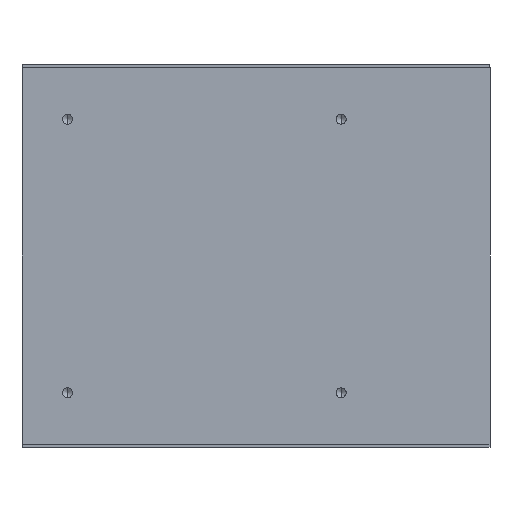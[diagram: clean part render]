
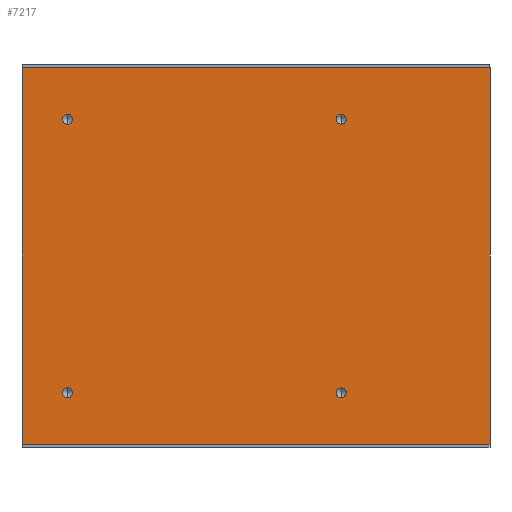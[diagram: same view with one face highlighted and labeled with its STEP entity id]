
A CAD part, front view. The second image highlights one B-rep face of the part: STEP entity #7217.
In plain terms, the highlighted planar face has unit normal (0, -1, 0).
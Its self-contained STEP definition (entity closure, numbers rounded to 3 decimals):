
#216 = CARTESIAN_POINT ( 'NONE',  ( 105., 0., -45. ) ) ;
#275 = CARTESIAN_POINT ( 'NONE',  ( 154., 0., 62. ) ) ;
#381 = EDGE_CURVE ( 'NONE', #7695, #28150, #20667, .T. ) ;
#872 = CIRCLE ( 'NONE', #42446, 1.65 ) ;
#1463 = DIRECTION ( 'NONE',  ( 1., 0., 0. ) ) ;
#2076 = CARTESIAN_POINT ( 'NONE',  ( 0., 0., 62. ) ) ;
#2306 = AXIS2_PLACEMENT_3D ( 'NONE', #20024, #10719, #3002 ) ;
#2668 = DIRECTION ( 'NONE',  ( 0., 0., -1. ) ) ;
#2994 = DIRECTION ( 'NONE',  ( 0., -1., 0. ) ) ;
#3002 = DIRECTION ( 'NONE',  ( 0., 0., -1. ) ) ;
#3590 = CARTESIAN_POINT ( 'NONE',  ( 15., 0., 45. ) ) ;
#4352 = CIRCLE ( 'NONE', #8600, 1.65 ) ;
#4356 = LINE ( 'NONE', #31282, #43659 ) ;
#4832 = ORIENTED_EDGE ( 'NONE', *, *, #15623, .F. ) ;
#4947 = LINE ( 'NONE', #28770, #42000 ) ;
#5597 = DIRECTION ( 'NONE',  ( 1., 0., 0. ) ) ;
#5822 = CARTESIAN_POINT ( 'NONE',  ( 15., 0., -46.65 ) ) ;
#6515 = CARTESIAN_POINT ( 'NONE',  ( 15., 0., -43.35 ) ) ;
#6638 = CIRCLE ( 'NONE', #10164, 1.65 ) ;
#6913 = DIRECTION ( 'NONE',  ( 0., -1., 0. ) ) ;
#7217 = ADVANCED_FACE ( 'NONE', ( #21238, #42151, #11930, #7766, #15039 ), #27862, .F. ) ;
#7364 = DIRECTION ( 'NONE',  ( 0., 0., -1. ) ) ;
#7695 = VERTEX_POINT ( 'NONE', #42263 ) ;
#7766 = FACE_BOUND ( 'NONE', #23625, .T. ) ;
#8000 = EDGE_LOOP ( 'NONE', ( #34122, #23109 ) ) ;
#8600 = AXIS2_PLACEMENT_3D ( 'NONE', #216, #43479, #10593 ) ;
#9323 = EDGE_CURVE ( 'NONE', #28895, #9706, #4356, .T. ) ;
#9706 = VERTEX_POINT ( 'NONE', #22131 ) ;
#10164 = AXIS2_PLACEMENT_3D ( 'NONE', #35980, #32698, #2668 ) ;
#10593 = DIRECTION ( 'NONE',  ( 0., 0., -1. ) ) ;
#10603 = CARTESIAN_POINT ( 'NONE',  ( 15., 0., 46.65 ) ) ;
#10719 = DIRECTION ( 'NONE',  ( 0., -1., 0. ) ) ;
#11261 = CARTESIAN_POINT ( 'NONE',  ( 105., 0., -46.65 ) ) ;
#11930 = FACE_BOUND ( 'NONE', #41459, .T. ) ;
#12095 = EDGE_CURVE ( 'NONE', #23356, #28702, #6638, .T. ) ;
#12244 = AXIS2_PLACEMENT_3D ( 'NONE', #18146, #34671, #28066 ) ;
#12516 = ORIENTED_EDGE ( 'NONE', *, *, #381, .F. ) ;
#13002 = EDGE_CURVE ( 'NONE', #38667, #33452, #18681, .T. ) ;
#13971 = DIRECTION ( 'NONE',  ( 0., 0., -1. ) ) ;
#14365 = VERTEX_POINT ( 'NONE', #275 ) ;
#14836 = VECTOR ( 'NONE', #42464, 1000. ) ;
#14980 = CARTESIAN_POINT ( 'NONE',  ( 15., 0., -45. ) ) ;
#15039 = FACE_OUTER_BOUND ( 'NONE', #29124, .T. ) ;
#15623 = EDGE_CURVE ( 'NONE', #30943, #22166, #38242, .T. ) ;
#16507 = ORIENTED_EDGE ( 'NONE', *, *, #37668, .F. ) ;
#17304 = CARTESIAN_POINT ( 'NONE',  ( 15., 0., -45. ) ) ;
#18146 = CARTESIAN_POINT ( 'NONE',  ( 0., 0., 62. ) ) ;
#18547 = EDGE_CURVE ( 'NONE', #14365, #9706, #21868, .T. ) ;
#18564 = DIRECTION ( 'NONE',  ( 0., 0., -1. ) ) ;
#18681 = CIRCLE ( 'NONE', #19410, 1.65 ) ;
#19410 = AXIS2_PLACEMENT_3D ( 'NONE', #37136, #6913, #20385 ) ;
#20024 = CARTESIAN_POINT ( 'NONE',  ( 105., 0., 45. ) ) ;
#20296 = EDGE_CURVE ( 'NONE', #22166, #30943, #872, .T. ) ;
#20385 = DIRECTION ( 'NONE',  ( 0., 0., -1. ) ) ;
#20667 = CIRCLE ( 'NONE', #2306, 1.65 ) ;
#21238 = FACE_BOUND ( 'NONE', #43309, .T. ) ;
#21606 = ORIENTED_EDGE ( 'NONE', *, *, #20296, .F. ) ;
#21823 = DIRECTION ( 'NONE',  ( 0., -1., 0. ) ) ;
#21868 = LINE ( 'NONE', #38611, #32565 ) ;
#22131 = CARTESIAN_POINT ( 'NONE',  ( 154., 0., -62. ) ) ;
#22166 = VERTEX_POINT ( 'NONE', #5822 ) ;
#23109 = ORIENTED_EDGE ( 'NONE', *, *, #23629, .F. ) ;
#23356 = VERTEX_POINT ( 'NONE', #25062 ) ;
#23625 = EDGE_LOOP ( 'NONE', ( #40784, #41204 ) ) ;
#23629 = EDGE_CURVE ( 'NONE', #28702, #23356, #40157, .T. ) ;
#25062 = CARTESIAN_POINT ( 'NONE',  ( 15., 0., 43.35 ) ) ;
#25526 = CARTESIAN_POINT ( 'NONE',  ( 105., 0., 46.65 ) ) ;
#26861 = ORIENTED_EDGE ( 'NONE', *, *, #40939, .T. ) ;
#27228 = DIRECTION ( 'NONE',  ( 0., -1., 0. ) ) ;
#27296 = CIRCLE ( 'NONE', #37141, 1.65 ) ;
#27323 = EDGE_CURVE ( 'NONE', #33452, #38667, #4352, .T. ) ;
#27862 = PLANE ( 'NONE',  #12244 ) ;
#28066 = DIRECTION ( 'NONE',  ( -1., 0., 0. ) ) ;
#28150 = VERTEX_POINT ( 'NONE', #25526 ) ;
#28702 = VERTEX_POINT ( 'NONE', #10603 ) ;
#28770 = CARTESIAN_POINT ( 'NONE',  ( 0., 0., 62. ) ) ;
#28882 = CARTESIAN_POINT ( 'NONE',  ( 0., 0., -62. ) ) ;
#28885 = AXIS2_PLACEMENT_3D ( 'NONE', #3590, #27228, #7364 ) ;
#28895 = VERTEX_POINT ( 'NONE', #28882 ) ;
#29124 = EDGE_LOOP ( 'NONE', ( #41367, #33091, #30167, #26861 ) ) ;
#29214 = CARTESIAN_POINT ( 'NONE',  ( 105., 0., -43.35 ) ) ;
#30167 = ORIENTED_EDGE ( 'NONE', *, *, #34707, .F. ) ;
#30943 = VERTEX_POINT ( 'NONE', #6515 ) ;
#31282 = CARTESIAN_POINT ( 'NONE',  ( 0., 0., -62. ) ) ;
#31523 = DIRECTION ( 'NONE',  ( 0., 0., -1. ) ) ;
#32565 = VECTOR ( 'NONE', #18564, 1000. ) ;
#32698 = DIRECTION ( 'NONE',  ( 0., -1., 0. ) ) ;
#32751 = VERTEX_POINT ( 'NONE', #35763 ) ;
#33091 = ORIENTED_EDGE ( 'NONE', *, *, #18547, .F. ) ;
#33452 = VERTEX_POINT ( 'NONE', #29214 ) ;
#34122 = ORIENTED_EDGE ( 'NONE', *, *, #12095, .F. ) ;
#34671 = DIRECTION ( 'NONE',  ( 0., 1., 0. ) ) ;
#34707 = EDGE_CURVE ( 'NONE', #32751, #14365, #4947, .T. ) ;
#35763 = CARTESIAN_POINT ( 'NONE',  ( 0., 0., 62. ) ) ;
#35980 = CARTESIAN_POINT ( 'NONE',  ( 15., 0., 45. ) ) ;
#36130 = AXIS2_PLACEMENT_3D ( 'NONE', #17304, #2994, #13971 ) ;
#36582 = DIRECTION ( 'NONE',  ( 0., 0., -1. ) ) ;
#36712 = LINE ( 'NONE', #2076, #14836 ) ;
#37136 = CARTESIAN_POINT ( 'NONE',  ( 105., 0., -45. ) ) ;
#37141 = AXIS2_PLACEMENT_3D ( 'NONE', #43435, #39455, #36582 ) ;
#37668 = EDGE_CURVE ( 'NONE', #28150, #7695, #27296, .T. ) ;
#38242 = CIRCLE ( 'NONE', #36130, 1.65 ) ;
#38611 = CARTESIAN_POINT ( 'NONE',  ( 154., 0., 62. ) ) ;
#38667 = VERTEX_POINT ( 'NONE', #11261 ) ;
#39455 = DIRECTION ( 'NONE',  ( 0., -1., 0. ) ) ;
#40157 = CIRCLE ( 'NONE', #28885, 1.65 ) ;
#40784 = ORIENTED_EDGE ( 'NONE', *, *, #13002, .F. ) ;
#40939 = EDGE_CURVE ( 'NONE', #32751, #28895, #36712, .T. ) ;
#41204 = ORIENTED_EDGE ( 'NONE', *, *, #27323, .F. ) ;
#41367 = ORIENTED_EDGE ( 'NONE', *, *, #9323, .T. ) ;
#41459 = EDGE_LOOP ( 'NONE', ( #21606, #4832 ) ) ;
#42000 = VECTOR ( 'NONE', #5597, 1000. ) ;
#42151 = FACE_BOUND ( 'NONE', #8000, .T. ) ;
#42263 = CARTESIAN_POINT ( 'NONE',  ( 105., 0., 43.35 ) ) ;
#42446 = AXIS2_PLACEMENT_3D ( 'NONE', #14980, #21823, #31523 ) ;
#42464 = DIRECTION ( 'NONE',  ( 0., 0., -1. ) ) ;
#43309 = EDGE_LOOP ( 'NONE', ( #12516, #16507 ) ) ;
#43435 = CARTESIAN_POINT ( 'NONE',  ( 105., 0., 45. ) ) ;
#43479 = DIRECTION ( 'NONE',  ( 0., -1., 0. ) ) ;
#43659 = VECTOR ( 'NONE', #1463, 1000. ) ;
